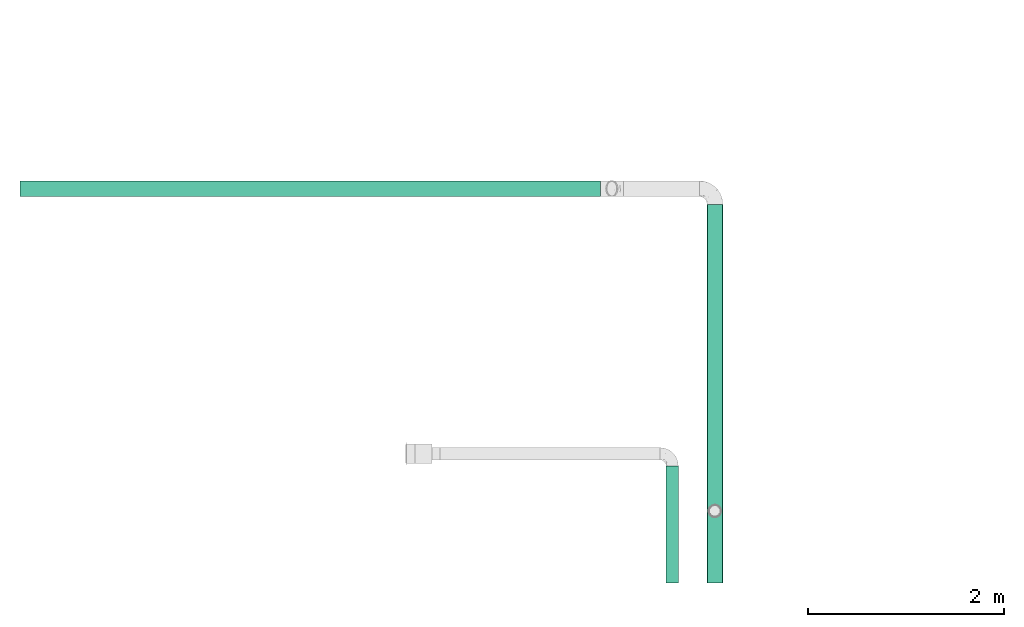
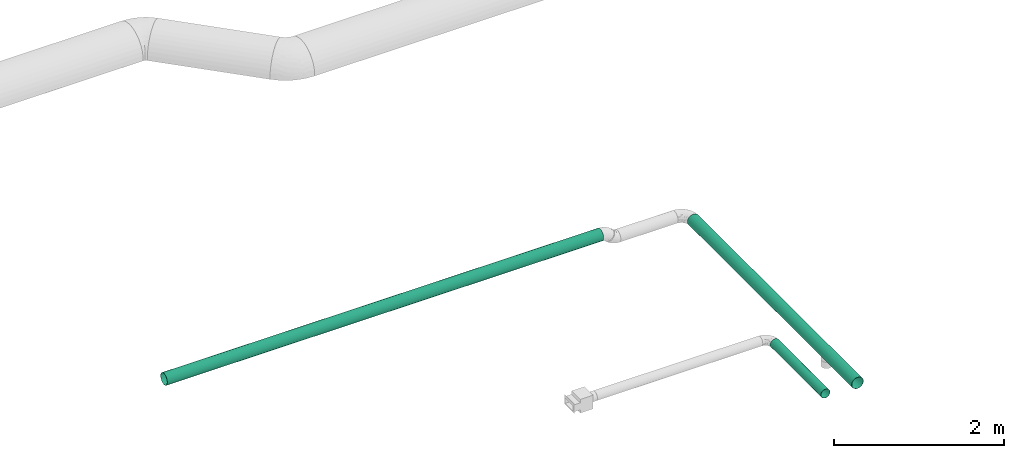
# One storey, part 3 of 10: 3 flow segments.
"""IFC2X3 building model written with IfcOpenShell, lengths in millimetres."""

from ifc_helpers import new_model, entity, si_unit, converted_unit, derived_unit, direction, frame, place, context, subcontext, project, spatial, faceted_brep, type_object, element, save


model = new_model("IFC2X3")

# Units and contexts
model_context = context("Model", 3, precision=0.01, world=frame((0.0, 4.29681676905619e-09, 0.0)), true_north=direction((4.01073788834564e-13, 1.0)))
plan_context = context("Plan", 3, precision=0.01, world=frame((0.0, 4.29681676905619e-09, 0.0)), true_north=direction((4.01073788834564e-13, 1.0)))
body_context = subcontext(model_context, "Body", "Model", "MODEL_VIEW")
ifc_project = project(units=[converted_unit("PLANEANGLEUNIT", "DEGREE", entity("IfcPositiveLengthMeasure", 0.0174532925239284), si_unit("PLANEANGLEUNIT", "RADIAN"), dimensions=[0, 0, 0, 0, 0, 0, 0]), si_unit("AREAUNIT", "SQUARE_METRE"), si_unit("LENGTHUNIT", "METRE", prefix="MILLI"), si_unit("MASSUNIT", "GRAM", prefix="KILO"), si_unit("POWERUNIT", "WATT"), si_unit("PRESSUREUNIT", "PASCAL"), si_unit("FORCEUNIT", "NEWTON", prefix="KILO"), si_unit("ELECTRICCURRENTUNIT", "AMPERE"), si_unit("THERMODYNAMICTEMPERATUREUNIT", "DEGREE_CELSIUS"), si_unit("TIMEUNIT", "SECOND"), si_unit("VOLUMEUNIT", "CUBIC_METRE"), derived_unit("LINEARVELOCITYUNIT", [(si_unit("LENGTHUNIT", "METRE"), 1), (si_unit("TIMEUNIT", "SECOND"), -1)]), derived_unit("VOLUMETRICFLOWRATEUNIT", [(si_unit("VOLUMEUNIT", "CUBIC_METRE"), 1), (si_unit("TIMEUNIT", "SECOND"), -1)]), derived_unit("THERMALTRANSMITTANCEUNIT", [(si_unit("POWERUNIT", "WATT"), 1), (si_unit("THERMODYNAMICTEMPERATUREUNIT", "KELVIN"), -1), (si_unit("AREAUNIT", "SQUARE_METRE"), -1)])], contexts=[model_context, plan_context])

# Site, building, storey
site_placement = place(None, frame((0.0, -4.29681676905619e-09, 0.0), z_axis=(0.0, 0.0, 1.0), x_axis=(1.0, 0.0, 0.0)))
site = spatial("IfcSite", under=ifc_project, at=site_placement, CompositionType="ELEMENT")
building_placement = place(site_placement, frame((0.0, 4.29681676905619e-09, 0.0), z_axis=(0.0, 0.0, 1.0), x_axis=(1.0, 0.0, 0.0)))
building = spatial("IfcBuilding", under=site, at=building_placement, Name="mc-building", CompositionType="ELEMENT")
storey_placement = place(building_placement, frame((0.0, 0.0, 200300.0), z_axis=(0.0, 0.0, 1.0), x_axis=(1.0, 0.0, 0.0)))
storey = spatial("IfcBuildingStorey", under=building, at=storey_placement, Name="Nivå C", CompositionType="ELEMENT", Elevation=200300.0)

# Flow segments
duct_segment_type_1 = type_object("IfcDuctSegmentType", Name="KK001T - Spiro kanaler, Forsinket stål", PredefinedType="RIGIDSEGMENT")
flow_segment_1_placement = place(storey_placement, frame((520942.6375, 397964.44289, 2880.0), z_axis=(0.0, 0.0, 1.0), x_axis=(0.0, 1.0, 0.0)))
element("IfcFlowSegment", 1, at=flow_segment_1_placement, inside=storey, type_object=duct_segment_type_1, Name="KK001T - Spiro kanaler, Forsinket stål", context=body_context, shape_type="Brep", body=[
    faceted_brep([(2881.23376895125, 76.8150047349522, -13.5445578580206), (2881.23376895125, 78.0, 0.0), (6736.6, 78.0, 0.0), (6736.6, 76.8150047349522, -13.5445578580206), (2881.23376895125, 73.2960244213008, -26.6775711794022), (6736.6, 73.2960244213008, -26.6775711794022), (2881.23376895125, 67.5499814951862, -39.0), (6736.6, 67.5499814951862, -39.0), (2881.23376895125, 59.7514665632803, -50.1374335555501), (6736.6, 59.7514665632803, -50.1374335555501), (2881.23376895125, 50.1374335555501, -59.7514665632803), (6736.6, 50.1374335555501, -59.7514665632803), (2881.23376895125, 39.0, -67.5499814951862), (6736.6, 39.0, -67.5499814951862), (2881.23376895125, 26.6775711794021, -73.2960244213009), (6736.6, 26.6775711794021, -73.2960244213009), (2881.23376895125, 13.5445578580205, -76.8150047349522), (6736.6, 13.5445578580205, -76.8150047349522), (2881.23376895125, -1.4328367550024e-14, -78.0), (6736.6, -1.4328367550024e-14, -78.0), (2881.23376895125, -13.5445578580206, -76.8150047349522), (6736.6, -13.5445578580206, -76.8150047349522), (2881.23376895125, -26.6775711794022, -73.2960244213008), (6736.6, -26.6775711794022, -73.2960244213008), (2881.23376895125, -39.0, -67.5499814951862), (6736.6, -39.0, -67.5499814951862), (2881.23376895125, -50.1374335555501, -59.7514665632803), (6736.6, -50.1374335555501, -59.7514665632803), (2881.23376895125, -59.7514665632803, -50.1374335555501), (6736.6, -59.7514665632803, -50.1374335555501), (2881.23376895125, -67.5499814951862, -39.0), (6736.6, -67.5499814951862, -39.0), (2881.23376895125, -73.2960244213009, -26.6775711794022), (6736.6, -73.2960244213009, -26.6775711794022), (2881.23376895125, -76.8150047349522, -13.5445578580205), (6736.6, -76.8150047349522, -13.5445578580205), (2881.23376895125, -78.0, 9.55224503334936e-15), (6736.6, -78.0, 9.55224503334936e-15), (2881.23376895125, -76.8150047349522, 13.5445578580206), (6736.6, -76.8150047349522, 13.5445578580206), (2881.23376895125, -73.2960244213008, 26.6775711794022), (6736.6, -73.2960244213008, 26.6775711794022), (2881.23376895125, -67.5499814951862, 39.0), (6736.6, -67.5499814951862, 39.0), (2881.23376895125, -59.7514665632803, 50.1374335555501), (6736.6, -59.7514665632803, 50.1374335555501), (2881.23376895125, -50.1374335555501, 59.7514665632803), (6736.6, -50.1374335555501, 59.7514665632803), (2881.23376895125, -39.0, 67.5499814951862), (6736.6, -39.0, 67.5499814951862), (2881.23376895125, -26.6775711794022, 73.2960244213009), (6736.6, -26.6775711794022, 73.2960244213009), (2881.23376895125, -13.5445578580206, 76.8150047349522), (6736.6, -13.5445578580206, 76.8150047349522), (2881.23376895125, 4.77612251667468e-15, 78.0), (6736.6, 4.77612251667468e-15, 78.0), (2881.23376895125, 13.5445578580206, 76.8150047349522), (6736.6, 13.5445578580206, 76.8150047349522), (2881.23376895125, 26.6775711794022, 73.2960244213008), (6736.6, 26.6775711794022, 73.2960244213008), (2881.23376895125, 39.0, 67.5499814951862), (6736.6, 39.0, 67.5499814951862), (2881.23376895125, 50.1374335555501, 59.7514665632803), (6736.6, 50.1374335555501, 59.7514665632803), (2881.23376895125, 59.7514665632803, 50.1374335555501), (6736.6, 59.7514665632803, 50.1374335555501), (2881.23376895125, 67.5499814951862, 39.0), (6736.6, 67.5499814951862, 39.0), (2881.23376895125, 73.2960244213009, 26.6775711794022), (6736.6, 73.2960244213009, 26.6775711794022), (2881.23376895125, 76.8150047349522, 13.5445578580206), (6736.6, 76.8150047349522, 13.5445578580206), (2881.23376895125, 80.0, 0.0), (2881.23376895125, 78.7846202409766, -13.8918542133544), (6736.6, 78.7846202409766, -13.8918542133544), (6736.6, 80.0, 0.0), (2881.23376895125, 78.7846202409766, 13.8918542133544), (6736.6, 78.7846202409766, 13.8918542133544), (2881.23376895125, 75.1754096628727, 27.3616114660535), (6736.6, 75.1754096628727, 27.3616114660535), (2881.23376895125, 69.2820323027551, 40.0), (6736.6, 69.2820323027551, 40.0), (2881.23376895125, 61.2835554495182, 51.4230087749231), (6736.6, 61.2835554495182, 51.4230087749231), (2881.23376895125, 51.4230087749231, 61.2835554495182), (6736.6, 51.4230087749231, 61.2835554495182), (2881.23376895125, 40.0, 69.2820323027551), (6736.6, 40.0, 69.2820323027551), (2881.23376895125, 27.3616114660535, 75.1754096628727), (6736.6, 27.3616114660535, 75.1754096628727), (2881.23376895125, 13.8918542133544, 78.7846202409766), (6736.6, 13.8918542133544, 78.7846202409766), (2881.23376895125, 4.89858719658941e-15, 80.0), (6736.6, 4.89858719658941e-15, 80.0), (2881.23376895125, -13.8918542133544, 78.7846202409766), (6736.6, -13.8918542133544, 78.7846202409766), (2881.23376895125, -27.3616114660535, 75.1754096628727), (6736.6, -27.3616114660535, 75.1754096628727), (2881.23376895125, -40.0, 69.2820323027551), (6736.6, -40.0, 69.2820323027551), (2881.23376895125, -51.4230087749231, 61.2835554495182), (6736.6, -51.4230087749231, 61.2835554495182), (2881.23376895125, -61.2835554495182, 51.4230087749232), (6736.6, -61.2835554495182, 51.4230087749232), (2881.23376895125, -69.2820323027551, 40.0), (6736.6, -69.2820323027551, 40.0), (2881.23376895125, -75.1754096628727, 27.3616114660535), (6736.6, -75.1754096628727, 27.3616114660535), (2881.23376895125, -78.7846202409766, 13.8918542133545), (6736.6, -78.7846202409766, 13.8918542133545), (2881.23376895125, -80.0, 9.79717439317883e-15), (6736.6, -80.0, 9.79717439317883e-15), (2881.23376895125, -78.7846202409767, -13.8918542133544), (6736.6, -78.7846202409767, -13.8918542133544), (2881.23376895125, -75.1754096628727, -27.3616114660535), (6736.6, -75.1754096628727, -27.3616114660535), (2881.23376895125, -69.2820323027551, -40.0), (6736.6, -69.2820323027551, -40.0), (2881.23376895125, -61.2835554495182, -51.4230087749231), (6736.6, -61.2835554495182, -51.4230087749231), (2881.23376895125, -51.4230087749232, -61.2835554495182), (6736.6, -51.4230087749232, -61.2835554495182), (2881.23376895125, -40.0, -69.2820323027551), (6736.6, -40.0, -69.2820323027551), (2881.23376895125, -27.3616114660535, -75.1754096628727), (6736.6, -27.3616114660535, -75.1754096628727), (2881.23376895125, -13.8918542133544, -78.7846202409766), (6736.6, -13.8918542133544, -78.7846202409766), (2881.23376895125, -1.46957615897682e-14, -80.0), (6736.6, -1.46957615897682e-14, -80.0), (2881.23376895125, 13.8918542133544, -78.7846202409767), (6736.6, 13.8918542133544, -78.7846202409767), (2881.23376895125, 27.3616114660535, -75.1754096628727), (6736.6, 27.3616114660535, -75.1754096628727), (2881.23376895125, 40.0, -69.2820323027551), (6736.6, 40.0, -69.2820323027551), (2881.23376895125, 51.4230087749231, -61.2835554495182), (6736.6, 51.4230087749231, -61.2835554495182), (2881.23376895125, 61.2835554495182, -51.4230087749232), (6736.6, 61.2835554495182, -51.4230087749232), (2881.23376895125, 69.2820323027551, -40.0), (6736.6, 69.2820323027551, -40.0), (2881.23376895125, 75.1754096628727, -27.3616114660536), (6736.6, 75.1754096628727, -27.3616114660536)], [[[0, 1, 2, 3]], [[4, 0, 3, 5]], [[6, 4, 5, 7]], [[8, 6, 7, 9]], [[10, 8, 9, 11]], [[12, 10, 11, 13]], [[14, 12, 13, 15]], [[16, 14, 15, 17]], [[18, 16, 17, 19]], [[20, 18, 19, 21]], [[22, 20, 21, 23]], [[24, 22, 23, 25]], [[26, 24, 25, 27]], [[28, 26, 27, 29]], [[30, 28, 29, 31]], [[32, 30, 31, 33]], [[34, 32, 33, 35]], [[36, 34, 35, 37]], [[38, 36, 37, 39]], [[40, 38, 39, 41]], [[42, 40, 41, 43]], [[44, 42, 43, 45]], [[46, 44, 45, 47]], [[48, 46, 47, 49]], [[50, 48, 49, 51]], [[52, 50, 51, 53]], [[54, 52, 53, 55]], [[56, 54, 55, 57]], [[58, 56, 57, 59]], [[60, 58, 59, 61]], [[62, 60, 61, 63]], [[64, 62, 63, 65]], [[66, 64, 65, 67]], [[68, 66, 67, 69]], [[70, 68, 69, 71]], [[1, 70, 71, 2]], [[72, 73, 74, 75]], [[76, 72, 75, 77]], [[78, 76, 77, 79]], [[80, 78, 79, 81]], [[82, 80, 81, 83]], [[84, 82, 83, 85]], [[86, 84, 85, 87]], [[88, 86, 87, 89]], [[90, 88, 89, 91]], [[92, 90, 91, 93]], [[94, 92, 93, 95]], [[96, 94, 95, 97]], [[98, 96, 97, 99]], [[100, 98, 99, 101]], [[102, 100, 101, 103]], [[104, 102, 103, 105]], [[106, 104, 105, 107]], [[108, 106, 107, 109]], [[110, 108, 109, 111]], [[112, 110, 111, 113]], [[114, 112, 113, 115]], [[116, 114, 115, 117]], [[118, 116, 117, 119]], [[120, 118, 119, 121]], [[122, 120, 121, 123]], [[124, 122, 123, 125]], [[126, 124, 125, 127]], [[128, 126, 127, 129]], [[130, 128, 129, 131]], [[132, 130, 131, 133]], [[134, 132, 133, 135]], [[136, 134, 135, 137]], [[138, 136, 137, 139]], [[140, 138, 139, 141]], [[142, 140, 141, 143]], [[73, 142, 143, 74]], [[75, 74, 143, 141, 139, 137, 135, 133, 131, 129, 127, 125, 123, 121, 119, 117, 115, 113, 111, 109, 107, 105, 103, 101, 99, 97, 95, 93, 91, 89, 87, 85, 83, 81, 79, 77], [2, 71, 69, 67, 65, 63, 61, 59, 57, 55, 53, 51, 49, 47, 45, 43, 41, 39, 37, 35, 33, 31, 29, 27, 25, 23, 21, 19, 17, 15, 13, 11, 9, 7, 5, 3]], [[76, 78, 80, 82, 84, 86, 88, 90, 92, 94, 96, 98, 100, 102, 104, 106, 108, 110, 112, 114, 116, 118, 120, 122, 124, 126, 128, 130, 132, 134, 136, 138, 140, 142, 73, 72], [4, 6, 8, 10, 12, 14, 16, 18, 20, 22, 24, 26, 28, 30, 32, 34, 36, 38, 40, 42, 44, 46, 48, 50, 52, 54, 56, 58, 60, 62, 64, 66, 68, 70, 1, 0]]], orient=[[False], [False], [False], [False], [False], [False], [False], [False], [False], [False], [False], [False], [False], [False], [False], [False], [False], [False], [False], [False], [False], [False], [False], [False], [False], [False], [False], [False], [False], [False], [False], [False], [False], [False], [False], [False], [False], [False], [False], [False], [False], [False], [False], [False], [False], [False], [False], [False], [False], [False], [False], [False], [False], [False], [False], [False], [False], [False], [False], [False], [False], [False], [False], [False], [False], [False], [False], [False], [False], [False], [False], [False], [False, False], [False, False]]),
])
flow_segment_2_placement = place(storey_placement, frame((520507.1, 398964.72901, 2880.0), z_axis=(0.0, 0.0, 1.0), x_axis=(0.0, 1.0, 0.0)))
element("IfcFlowSegment", 2, at=flow_segment_2_placement, inside=storey, type_object=duct_segment_type_1, Name="KK001T - Spiro kanaler, Forsinket stål", context=body_context, shape_type="Brep", body=[
    faceted_brep([(1880.94764895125, 59.5808690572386, -10.5057147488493), (1880.94764895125, 60.5, 0.0), (3070.7, 60.5, 0.0), (3070.7, 59.5808690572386, -10.5057147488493), (1880.94764895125, 56.8514035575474, -20.692218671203), (3070.7, 56.8514035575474, -20.692218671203), (1880.94764895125, 52.3945369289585, -30.25), (3070.7, 52.3945369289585, -30.25), (1880.94764895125, 46.3456888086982, -38.8886503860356), (3070.7, 46.3456888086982, -38.8886503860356), (1880.94764895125, 38.8886503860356, -46.3456888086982), (3070.7, 38.8886503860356, -46.3456888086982), (1880.94764895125, 30.25, -52.3945369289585), (3070.7, 30.25, -52.3945369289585), (1880.94764895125, 20.6922186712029, -56.8514035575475), (3070.7, 20.6922186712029, -56.8514035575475), (1880.94764895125, 10.5057147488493, -59.5808690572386), (3070.7, 10.5057147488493, -59.5808690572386), (1880.94764895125, -1.11136697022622e-14, -60.5), (3070.7, -1.11136697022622e-14, -60.5), (1880.94764895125, -10.5057147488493, -59.5808690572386), (3070.7, -10.5057147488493, -59.5808690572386), (1880.94764895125, -20.692218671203, -56.8514035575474), (3070.7, -20.692218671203, -56.8514035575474), (1880.94764895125, -30.25, -52.3945369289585), (3070.7, -30.25, -52.3945369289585), (1880.94764895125, -38.8886503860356, -46.3456888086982), (3070.7, -38.8886503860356, -46.3456888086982), (1880.94764895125, -46.3456888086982, -38.8886503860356), (3070.7, -46.3456888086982, -38.8886503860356), (1880.94764895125, -52.3945369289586, -30.25), (3070.7, -52.3945369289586, -30.25), (1880.94764895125, -56.8514035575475, -20.692218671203), (3070.7, -56.8514035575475, -20.692218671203), (1880.94764895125, -59.5808690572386, -10.5057147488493), (3070.7, -59.5808690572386, -10.5057147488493), (1880.94764895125, -60.5, 7.40911313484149e-15), (3070.7, -60.5, 7.40911313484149e-15), (1880.94764895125, -59.5808690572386, 10.5057147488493), (3070.7, -59.5808690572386, 10.5057147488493), (1880.94764895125, -56.8514035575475, 20.692218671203), (3070.7, -56.8514035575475, 20.692218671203), (1880.94764895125, -52.3945369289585, 30.25), (3070.7, -52.3945369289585, 30.25), (1880.94764895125, -46.3456888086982, 38.8886503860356), (3070.7, -46.3456888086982, 38.8886503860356), (1880.94764895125, -38.8886503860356, 46.3456888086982), (3070.7, -38.8886503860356, 46.3456888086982), (1880.94764895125, -30.25, 52.3945369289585), (3070.7, -30.25, 52.3945369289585), (1880.94764895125, -20.692218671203, 56.8514035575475), (3070.7, -20.692218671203, 56.8514035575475), (1880.94764895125, -10.5057147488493, 59.5808690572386), (3070.7, -10.5057147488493, 59.5808690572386), (1880.94764895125, 3.70455656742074e-15, 60.5), (3070.7, 3.70455656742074e-15, 60.5), (1880.94764895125, 10.5057147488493, 59.5808690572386), (3070.7, 10.5057147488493, 59.5808690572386), (1880.94764895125, 20.692218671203, 56.8514035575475), (3070.7, 20.692218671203, 56.8514035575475), (1880.94764895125, 30.25, 52.3945369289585), (3070.7, 30.25, 52.3945369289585), (1880.94764895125, 38.8886503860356, 46.3456888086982), (3070.7, 38.8886503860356, 46.3456888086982), (1880.94764895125, 46.3456888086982, 38.8886503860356), (3070.7, 46.3456888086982, 38.8886503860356), (1880.94764895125, 52.3945369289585, 30.25), (3070.7, 52.3945369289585, 30.25), (1880.94764895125, 56.8514035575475, 20.692218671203), (3070.7, 56.8514035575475, 20.692218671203), (1880.94764895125, 59.5808690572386, 10.5057147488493), (3070.7, 59.5808690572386, 10.5057147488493), (1880.94764895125, 62.5, 0.0), (1880.94764895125, 61.550484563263, -10.8530111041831), (3070.7, 61.550484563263, -10.8530111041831), (3070.7, 62.5, 0.0), (1880.94764895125, 61.550484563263, 10.8530111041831), (3070.7, 61.550484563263, 10.8530111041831), (1880.94764895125, 58.7307887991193, 21.3762589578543), (3070.7, 58.7307887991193, 21.3762589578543), (1880.94764895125, 54.1265877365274, 31.25), (3070.7, 54.1265877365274, 31.25), (1880.94764895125, 47.8777776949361, 40.1742256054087), (3070.7, 47.8777776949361, 40.1742256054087), (1880.94764895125, 40.1742256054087, 47.8777776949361), (3070.7, 40.1742256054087, 47.8777776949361), (1880.94764895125, 31.25, 54.1265877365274), (3070.7, 31.25, 54.1265877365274), (1880.94764895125, 21.3762589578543, 58.7307887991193), (3070.7, 21.3762589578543, 58.7307887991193), (1880.94764895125, 10.8530111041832, 61.550484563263), (3070.7, 10.8530111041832, 61.550484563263), (1880.94764895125, 3.82702124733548e-15, 62.5), (3070.7, 3.82702124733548e-15, 62.5), (1880.94764895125, -10.8530111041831, 61.550484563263), (3070.7, -10.8530111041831, 61.550484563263), (1880.94764895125, -21.3762589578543, 58.7307887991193), (3070.7, -21.3762589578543, 58.7307887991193), (1880.94764895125, -31.25, 54.1265877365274), (3070.7, -31.25, 54.1265877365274), (1880.94764895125, -40.1742256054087, 47.8777776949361), (3070.7, -40.1742256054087, 47.8777776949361), (1880.94764895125, -47.8777776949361, 40.1742256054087), (3070.7, -47.8777776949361, 40.1742256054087), (1880.94764895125, -54.1265877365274, 31.25), (3070.7, -54.1265877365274, 31.25), (1880.94764895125, -58.7307887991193, 21.3762589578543), (3070.7, -58.7307887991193, 21.3762589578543), (1880.94764895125, -61.550484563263, 10.8530111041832), (3070.7, -61.550484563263, 10.8530111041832), (1880.94764895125, -62.5, 7.65404249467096e-15), (3070.7, -62.5, 7.65404249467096e-15), (1880.94764895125, -61.550484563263, -10.8530111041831), (3070.7, -61.550484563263, -10.8530111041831), (1880.94764895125, -58.7307887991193, -21.3762589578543), (3070.7, -58.7307887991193, -21.3762589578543), (1880.94764895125, -54.1265877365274, -31.25), (3070.7, -54.1265877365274, -31.25), (1880.94764895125, -47.8777776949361, -40.1742256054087), (3070.7, -47.8777776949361, -40.1742256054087), (1880.94764895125, -40.1742256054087, -47.8777776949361), (3070.7, -40.1742256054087, -47.8777776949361), (1880.94764895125, -31.25, -54.1265877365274), (3070.7, -31.25, -54.1265877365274), (1880.94764895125, -21.3762589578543, -58.7307887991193), (3070.7, -21.3762589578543, -58.7307887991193), (1880.94764895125, -10.8530111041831, -61.550484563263), (3070.7, -10.8530111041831, -61.550484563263), (1880.94764895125, -1.14810637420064e-14, -62.5), (3070.7, -1.14810637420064e-14, -62.5), (1880.94764895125, 10.8530111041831, -61.550484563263), (3070.7, 10.8530111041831, -61.550484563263), (1880.94764895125, 21.3762589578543, -58.7307887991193), (3070.7, 21.3762589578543, -58.7307887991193), (1880.94764895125, 31.25, -54.1265877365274), (3070.7, 31.25, -54.1265877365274), (1880.94764895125, 40.1742256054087, -47.8777776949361), (3070.7, 40.1742256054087, -47.8777776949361), (1880.94764895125, 47.8777776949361, -40.1742256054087), (3070.7, 47.8777776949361, -40.1742256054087), (1880.94764895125, 54.1265877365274, -31.25), (3070.7, 54.1265877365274, -31.25), (1880.94764895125, 58.7307887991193, -21.3762589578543), (3070.7, 58.7307887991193, -21.3762589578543)], [[[0, 1, 2, 3]], [[4, 0, 3, 5]], [[6, 4, 5, 7]], [[8, 6, 7, 9]], [[10, 8, 9, 11]], [[12, 10, 11, 13]], [[14, 12, 13, 15]], [[16, 14, 15, 17]], [[18, 16, 17, 19]], [[20, 18, 19, 21]], [[22, 20, 21, 23]], [[24, 22, 23, 25]], [[26, 24, 25, 27]], [[28, 26, 27, 29]], [[30, 28, 29, 31]], [[32, 30, 31, 33]], [[34, 32, 33, 35]], [[36, 34, 35, 37]], [[38, 36, 37, 39]], [[40, 38, 39, 41]], [[42, 40, 41, 43]], [[44, 42, 43, 45]], [[46, 44, 45, 47]], [[48, 46, 47, 49]], [[50, 48, 49, 51]], [[52, 50, 51, 53]], [[54, 52, 53, 55]], [[56, 54, 55, 57]], [[58, 56, 57, 59]], [[60, 58, 59, 61]], [[62, 60, 61, 63]], [[64, 62, 63, 65]], [[66, 64, 65, 67]], [[68, 66, 67, 69]], [[70, 68, 69, 71]], [[1, 70, 71, 2]], [[72, 73, 74, 75]], [[76, 72, 75, 77]], [[78, 76, 77, 79]], [[80, 78, 79, 81]], [[82, 80, 81, 83]], [[84, 82, 83, 85]], [[86, 84, 85, 87]], [[88, 86, 87, 89]], [[90, 88, 89, 91]], [[92, 90, 91, 93]], [[94, 92, 93, 95]], [[96, 94, 95, 97]], [[98, 96, 97, 99]], [[100, 98, 99, 101]], [[102, 100, 101, 103]], [[104, 102, 103, 105]], [[106, 104, 105, 107]], [[108, 106, 107, 109]], [[110, 108, 109, 111]], [[112, 110, 111, 113]], [[114, 112, 113, 115]], [[116, 114, 115, 117]], [[118, 116, 117, 119]], [[120, 118, 119, 121]], [[122, 120, 121, 123]], [[124, 122, 123, 125]], [[126, 124, 125, 127]], [[128, 126, 127, 129]], [[130, 128, 129, 131]], [[132, 130, 131, 133]], [[134, 132, 133, 135]], [[136, 134, 135, 137]], [[138, 136, 137, 139]], [[140, 138, 139, 141]], [[142, 140, 141, 143]], [[73, 142, 143, 74]], [[75, 74, 143, 141, 139, 137, 135, 133, 131, 129, 127, 125, 123, 121, 119, 117, 115, 113, 111, 109, 107, 105, 103, 101, 99, 97, 95, 93, 91, 89, 87, 85, 83, 81, 79, 77], [2, 71, 69, 67, 65, 63, 61, 59, 57, 55, 53, 51, 49, 47, 45, 43, 41, 39, 37, 35, 33, 31, 29, 27, 25, 23, 21, 19, 17, 15, 13, 11, 9, 7, 5, 3]], [[76, 78, 80, 82, 84, 86, 88, 90, 92, 94, 96, 98, 100, 102, 104, 106, 108, 110, 112, 114, 116, 118, 120, 122, 124, 126, 128, 130, 132, 134, 136, 138, 140, 142, 73, 72], [4, 6, 8, 10, 12, 14, 16, 18, 20, 22, 24, 26, 28, 30, 32, 34, 36, 38, 40, 42, 44, 46, 48, 50, 52, 54, 56, 58, 60, 62, 64, 66, 68, 70, 1, 0]]], orient=[[False], [False], [False], [False], [False], [False], [False], [False], [False], [False], [False], [False], [False], [False], [False], [False], [False], [False], [False], [False], [False], [False], [False], [False], [False], [False], [False], [False], [False], [False], [False], [False], [False], [False], [False], [False], [False], [False], [False], [False], [False], [False], [False], [False], [False], [False], [False], [False], [False], [False], [False], [False], [False], [False], [False], [False], [False], [False], [False], [False], [False], [False], [False], [False], [False], [False], [False], [False], [False], [False], [False], [False], [False, False], [False, False]]),
])
duct_segment_type_2 = type_object("IfcDuctSegmentType", Name="KK003T - Spiro kanaler, Stålrør", PredefinedType="RIGIDSEGMENT")
flow_segment_3_placement = place(storey_placement, frame((519775.41248, 404861.0, 2980.0), z_axis=(0.0, 0.0, 1.0), x_axis=(-1.0, 0.0, 0.0)))
element("IfcFlowSegment", 3, at=flow_segment_3_placement, inside=storey, type_object=duct_segment_type_2, Name="KK003T - Spiro kanaler, Stålrør", context=body_context, shape_type="Brep", body=[
    faceted_brep([(5912.91247999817, 78.0, 0.0), (5912.91247999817, 76.8150047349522, -13.5445578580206), (0.0, 76.8150047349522, -13.5445578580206), (0.0, 78.0, 0.0), (5912.91247999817, 73.2960244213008, -26.6775711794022), (0.0, 73.2960244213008, -26.6775711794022), (5912.91247999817, 67.5499814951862, -39.0), (0.0, 67.5499814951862, -39.0), (5912.91247999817, 59.7514665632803, -50.1374335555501), (0.0, 59.7514665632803, -50.1374335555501), (5912.91247999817, 50.1374335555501, -59.7514665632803), (0.0, 50.1374335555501, -59.7514665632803), (5912.91247999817, 39.0, -67.5499814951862), (0.0, 39.0, -67.5499814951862), (5912.91247999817, 26.6775711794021, -73.2960244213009), (0.0, 26.6775711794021, -73.2960244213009), (5912.91247999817, 13.5445578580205, -76.8150047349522), (0.0, 13.5445578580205, -76.8150047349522), (5912.91247999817, -1.4328367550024e-14, -78.0), (0.0, -1.4328367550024e-14, -78.0), (5912.91247999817, -13.5445578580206, -76.8150047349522), (0.0, -13.5445578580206, -76.8150047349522), (5912.91247999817, -26.6775711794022, -73.2960244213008), (0.0, -26.6775711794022, -73.2960244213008), (5912.91247999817, -39.0, -67.5499814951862), (0.0, -39.0, -67.5499814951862), (5912.91247999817, -50.1374335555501, -59.7514665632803), (0.0, -50.1374335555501, -59.7514665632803), (5912.91247999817, -59.7514665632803, -50.1374335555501), (0.0, -59.7514665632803, -50.1374335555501), (5912.91247999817, -67.5499814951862, -39.0), (0.0, -67.5499814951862, -39.0), (5912.91247999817, -73.2960244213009, -26.6775711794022), (0.0, -73.2960244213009, -26.6775711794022), (5912.91247999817, -76.8150047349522, -13.5445578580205), (0.0, -76.8150047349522, -13.5445578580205), (5912.91247999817, -78.0, 9.55224503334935e-15), (0.0, -78.0, 9.55224503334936e-15), (5912.91247999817, -76.8150047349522, 13.5445578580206), (0.0, -76.8150047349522, 13.5445578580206), (5912.91247999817, -73.2960244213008, 26.6775711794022), (0.0, -73.2960244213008, 26.6775711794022), (5912.91247999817, -67.5499814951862, 39.0), (0.0, -67.5499814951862, 39.0), (5912.91247999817, -59.7514665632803, 50.1374335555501), (0.0, -59.7514665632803, 50.1374335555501), (5912.91247999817, -50.1374335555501, 59.7514665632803), (0.0, -50.1374335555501, 59.7514665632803), (5912.91247999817, -39.0, 67.5499814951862), (0.0, -39.0, 67.5499814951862), (5912.91247999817, -26.6775711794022, 73.2960244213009), (0.0, -26.6775711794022, 73.2960244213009), (5912.91247999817, -13.5445578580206, 76.8150047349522), (0.0, -13.5445578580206, 76.8150047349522), (5912.91247999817, 4.77612251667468e-15, 78.0), (0.0, 4.77612251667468e-15, 78.0), (5912.91247999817, 13.5445578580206, 76.8150047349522), (0.0, 13.5445578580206, 76.8150047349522), (5912.91247999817, 26.6775711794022, 73.2960244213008), (0.0, 26.6775711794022, 73.2960244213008), (5912.91247999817, 39.0, 67.5499814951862), (0.0, 39.0, 67.5499814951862), (5912.91247999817, 50.1374335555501, 59.7514665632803), (0.0, 50.1374335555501, 59.7514665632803), (5912.91247999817, 59.7514665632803, 50.1374335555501), (0.0, 59.7514665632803, 50.1374335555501), (5912.91247999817, 67.5499814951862, 39.0), (0.0, 67.5499814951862, 39.0), (5912.91247999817, 73.2960244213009, 26.6775711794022), (0.0, 73.2960244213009, 26.6775711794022), (5912.91247999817, 76.8150047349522, 13.5445578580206), (0.0, 76.8150047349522, 13.5445578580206), (5912.91247999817, 78.7846202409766, -13.8918542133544), (5912.91247999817, 80.0, 0.0), (0.0, 80.0, 0.0), (0.0, 78.7846202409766, -13.8918542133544), (5912.91247999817, 78.7846202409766, 13.8918542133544), (0.0, 78.7846202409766, 13.8918542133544), (5912.91247999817, 75.1754096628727, 27.3616114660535), (0.0, 75.1754096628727, 27.3616114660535), (5912.91247999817, 69.2820323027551, 40.0), (0.0, 69.2820323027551, 40.0), (5912.91247999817, 61.2835554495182, 51.4230087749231), (0.0, 61.2835554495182, 51.4230087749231), (5912.91247999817, 51.4230087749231, 61.2835554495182), (0.0, 51.4230087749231, 61.2835554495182), (5912.91247999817, 40.0, 69.2820323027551), (0.0, 40.0, 69.2820323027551), (5912.91247999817, 27.3616114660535, 75.1754096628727), (0.0, 27.3616114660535, 75.1754096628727), (5912.91247999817, 13.8918542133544, 78.7846202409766), (0.0, 13.8918542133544, 78.7846202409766), (5912.91247999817, 4.89858719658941e-15, 80.0), (0.0, 4.89858719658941e-15, 80.0), (5912.91247999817, -13.8918542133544, 78.7846202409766), (0.0, -13.8918542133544, 78.7846202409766), (5912.91247999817, -27.3616114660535, 75.1754096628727), (0.0, -27.3616114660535, 75.1754096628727), (5912.91247999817, -40.0, 69.2820323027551), (0.0, -40.0, 69.2820323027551), (5912.91247999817, -51.4230087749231, 61.2835554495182), (0.0, -51.4230087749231, 61.2835554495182), (5912.91247999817, -61.2835554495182, 51.4230087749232), (0.0, -61.2835554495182, 51.4230087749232), (5912.91247999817, -69.2820323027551, 40.0), (0.0, -69.2820323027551, 40.0), (5912.91247999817, -75.1754096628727, 27.3616114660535), (0.0, -75.1754096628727, 27.3616114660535), (5912.91247999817, -78.7846202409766, 13.8918542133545), (0.0, -78.7846202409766, 13.8918542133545), (5912.91247999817, -80.0, 9.79717439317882e-15), (0.0, -80.0, 9.79717439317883e-15), (5912.91247999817, -78.7846202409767, -13.8918542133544), (0.0, -78.7846202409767, -13.8918542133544), (5912.91247999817, -75.1754096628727, -27.3616114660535), (0.0, -75.1754096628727, -27.3616114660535), (5912.91247999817, -69.2820323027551, -40.0), (0.0, -69.2820323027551, -40.0), (5912.91247999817, -61.2835554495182, -51.4230087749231), (0.0, -61.2835554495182, -51.4230087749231), (5912.91247999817, -51.4230087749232, -61.2835554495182), (0.0, -51.4230087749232, -61.2835554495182), (5912.91247999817, -40.0, -69.2820323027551), (0.0, -40.0, -69.2820323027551), (5912.91247999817, -27.3616114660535, -75.1754096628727), (0.0, -27.3616114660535, -75.1754096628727), (5912.91247999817, -13.8918542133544, -78.7846202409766), (0.0, -13.8918542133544, -78.7846202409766), (5912.91247999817, -1.46957615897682e-14, -80.0), (0.0, -1.46957615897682e-14, -80.0), (5912.91247999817, 13.8918542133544, -78.7846202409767), (0.0, 13.8918542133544, -78.7846202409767), (5912.91247999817, 27.3616114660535, -75.1754096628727), (0.0, 27.3616114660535, -75.1754096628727), (5912.91247999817, 40.0, -69.2820323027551), (0.0, 40.0, -69.2820323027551), (5912.91247999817, 51.4230087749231, -61.2835554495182), (0.0, 51.4230087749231, -61.2835554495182), (5912.91247999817, 61.2835554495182, -51.4230087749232), (0.0, 61.2835554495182, -51.4230087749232), (5912.91247999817, 69.2820323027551, -40.0), (0.0, 69.2820323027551, -40.0), (5912.91247999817, 75.1754096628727, -27.3616114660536), (0.0, 75.1754096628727, -27.3616114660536)], [[[0, 1, 2, 3]], [[1, 4, 5, 2]], [[4, 6, 7, 5]], [[6, 8, 9, 7]], [[8, 10, 11, 9]], [[10, 12, 13, 11]], [[12, 14, 15, 13]], [[14, 16, 17, 15]], [[16, 18, 19, 17]], [[18, 20, 21, 19]], [[20, 22, 23, 21]], [[22, 24, 25, 23]], [[24, 26, 27, 25]], [[26, 28, 29, 27]], [[28, 30, 31, 29]], [[30, 32, 33, 31]], [[32, 34, 35, 33]], [[34, 36, 37, 35]], [[36, 38, 39, 37]], [[38, 40, 41, 39]], [[40, 42, 43, 41]], [[42, 44, 45, 43]], [[44, 46, 47, 45]], [[46, 48, 49, 47]], [[48, 50, 51, 49]], [[50, 52, 53, 51]], [[52, 54, 55, 53]], [[54, 56, 57, 55]], [[56, 58, 59, 57]], [[58, 60, 61, 59]], [[60, 62, 63, 61]], [[62, 64, 65, 63]], [[64, 66, 67, 65]], [[66, 68, 69, 67]], [[68, 70, 71, 69]], [[70, 0, 3, 71]], [[72, 73, 74, 75]], [[73, 76, 77, 74]], [[76, 78, 79, 77]], [[78, 80, 81, 79]], [[80, 82, 83, 81]], [[82, 84, 85, 83]], [[84, 86, 87, 85]], [[86, 88, 89, 87]], [[88, 90, 91, 89]], [[90, 92, 93, 91]], [[92, 94, 95, 93]], [[94, 96, 97, 95]], [[96, 98, 99, 97]], [[98, 100, 101, 99]], [[100, 102, 103, 101]], [[102, 104, 105, 103]], [[104, 106, 107, 105]], [[106, 108, 109, 107]], [[108, 110, 111, 109]], [[110, 112, 113, 111]], [[112, 114, 115, 113]], [[114, 116, 117, 115]], [[116, 118, 119, 117]], [[118, 120, 121, 119]], [[120, 122, 123, 121]], [[122, 124, 125, 123]], [[124, 126, 127, 125]], [[126, 128, 129, 127]], [[128, 130, 131, 129]], [[130, 132, 133, 131]], [[132, 134, 135, 133]], [[134, 136, 137, 135]], [[136, 138, 139, 137]], [[138, 140, 141, 139]], [[140, 142, 143, 141]], [[142, 72, 75, 143]], [[75, 74, 77, 79, 81, 83, 85, 87, 89, 91, 93, 95, 97, 99, 101, 103, 105, 107, 109, 111, 113, 115, 117, 119, 121, 123, 125, 127, 129, 131, 133, 135, 137, 139, 141, 143], [3, 2, 5, 7, 9, 11, 13, 15, 17, 19, 21, 23, 25, 27, 29, 31, 33, 35, 37, 39, 41, 43, 45, 47, 49, 51, 53, 55, 57, 59, 61, 63, 65, 67, 69, 71]], [[142, 140, 138, 136, 134, 132, 130, 128, 126, 124, 122, 120, 118, 116, 114, 112, 110, 108, 106, 104, 102, 100, 98, 96, 94, 92, 90, 88, 86, 84, 82, 80, 78, 76, 73, 72], [70, 68, 66, 64, 62, 60, 58, 56, 54, 52, 50, 48, 46, 44, 42, 40, 38, 36, 34, 32, 30, 28, 26, 24, 22, 20, 18, 16, 14, 12, 10, 8, 6, 4, 1, 0]]], orient=[[False], [False], [False], [False], [False], [False], [False], [False], [False], [False], [False], [False], [False], [False], [False], [False], [False], [False], [False], [False], [False], [False], [False], [False], [False], [False], [False], [False], [False], [False], [False], [False], [False], [False], [False], [False], [False], [False], [False], [False], [False], [False], [False], [False], [False], [False], [False], [False], [False], [False], [False], [False], [False], [False], [False], [False], [False], [False], [False], [False], [False], [False], [False], [False], [False], [False], [False], [False], [False], [False], [False], [False], [False, False], [False, False]]),
])

save(model, "model.ifc")
